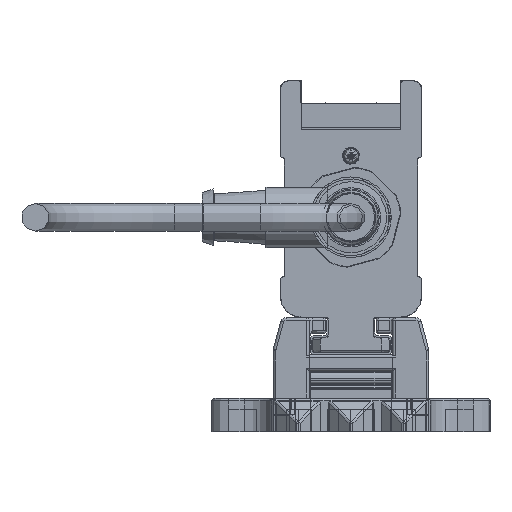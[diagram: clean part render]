
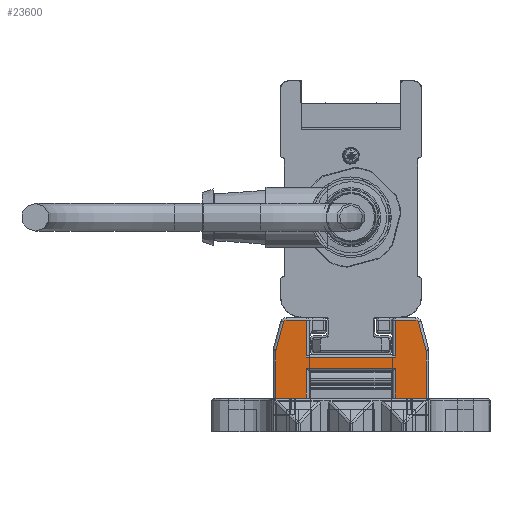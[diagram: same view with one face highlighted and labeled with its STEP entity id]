
A CAD part, left-side view. The second image highlights one B-rep face of the part: STEP entity #23600.
In plain terms, the highlighted planar face has unit normal (-1, 0, 0).
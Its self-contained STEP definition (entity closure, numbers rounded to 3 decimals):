
#23600=ADVANCED_FACE('', (#23610), #23620, .T.);
#189050=AXIS2_PLACEMENT_3D('Ax2Pl3d', #189060, #189070, #189080);
#189290=AXIS2_PLACEMENT_3D('Ax2Pl3d', #189300, #189310, #189320);
#194170=AXIS2_PLACEMENT_3D('Ax2Pl3d', #194180, #194190, #194200);
#199250=AXIS2_PLACEMENT_3D('Ax2Pl3d', #199260, #199270, #199280);
#208930=AXIS2_PLACEMENT_3D('Ax2Pl3d', #208940, #208950, #208960);
#844600=CARTESIAN_POINT('', (-747.669,-5366.345,
331.37));
#189060=CARTESIAN_POINT('HicPkt', (-747.669,-5365.379,
331.111));
#844610=CARTESIAN_POINT('', (-747.669,-5366.379,331.111)
);
#844620=CARTESIAN_POINT('', (-747.669,-5365.037,
336.255));
#844640=CARTESIAN_POINT('', (-747.669,-5365.037,
336.255));
#844670=CARTESIAN_POINT('', (-747.669,-5364.554,
336.625));
#189300=CARTESIAN_POINT('HicPkt', (-747.669,-5364.554,
336.125));
#844890=CARTESIAN_POINT('', (-747.669,-5366.379,322.625)
);
#844900=CARTESIAN_POINT('', (-747.669,-5360.881,322.625)
);
#844910=CARTESIAN_POINT('', (-747.669,-5360.881,322.625)
);
#844990=CARTESIAN_POINT('', (-747.669,-5344.881,322.625)
);
#845000=CARTESIAN_POINT('', (-747.669,-5339.383,322.625)
);
#845010=CARTESIAN_POINT('', (-747.669,-5339.383,322.625)
);
#194180=CARTESIAN_POINT('HicPkt', (-747.669,-5341.209,
336.125));
#847480=CARTESIAN_POINT('', (-747.669,-5340.726,
336.255));
#847490=CARTESIAN_POINT('', (-747.669,-5341.209,
336.625));
#847500=CARTESIAN_POINT('', (-747.669,-5360.881,
330.025));
#847510=CARTESIAN_POINT('', (-747.669,-5344.881,
330.025));
#847520=CARTESIAN_POINT('', (-747.669,-5360.881,
330.025));
#847680=CARTESIAN_POINT('', (-747.669,-5360.881,
328.005));
#847690=CARTESIAN_POINT('', (-747.669,-5344.881,
328.005));
#847700=CARTESIAN_POINT('', (-747.669,-5344.881,
328.005));
#847710=CARTESIAN_POINT('', (-747.669,-5360.881,
328.005));
#847730=CARTESIAN_POINT('', (-747.669,-5344.881,322.625)
);
#847740=CARTESIAN_POINT('', (-747.669,-5344.881,
330.025));
#847750=CARTESIAN_POINT('', (-747.669,-5344.881,
336.625));
#848600=CARTESIAN_POINT('', (-747.669,-5344.881,
336.625));
#848610=CARTESIAN_POINT('', (-747.669,-5340.726,
336.255));
#848620=CARTESIAN_POINT('', (-747.669,-5339.417,
331.37));
#848810=CARTESIAN_POINT('', (-747.669,-5339.383,331.111)
);
#848820=CARTESIAN_POINT('', (-747.669,-5339.383,331.111)
);
#199260=CARTESIAN_POINT('HicPkt', (-747.669,-5340.383,
331.111));
#849630=CARTESIAN_POINT('', (-747.669,-5366.379,331.111)
);
#208940=CARTESIAN_POINT('HicPkt', (-747.669,-5364.554,
336.625));
#851430=CARTESIAN_POINT('', (-747.669,-5360.881,
336.625));
#851440=CARTESIAN_POINT('', (-747.669,-5360.881,
336.625));
#851450=CARTESIAN_POINT('', (-747.669,-5360.881,
336.625));
#981330=CIRCLE('Circle', #189050, 1.);
#981370=CIRCLE('Circle', #189290, 0.5);
#981950=CIRCLE('Circle', #194170, 0.5);
#982480=CIRCLE('Circle', #199250, 1.);
#189070=DIRECTION('Axis', (-1.,0.,
0.));
#189080=DIRECTION('RefDirection', (0.,
0.,-1.));
#1367870=DIRECTION('', (0.,0.259,
0.966));
#189310=DIRECTION('Axis', (-1.,0.,
0.));
#189320=DIRECTION('RefDirection', (0.,
0.,-1.));
#1367980=DIRECTION('', (0.,1.,0.));
#1368020=DIRECTION('', (0.,1.,0.));
#194190=DIRECTION('Axis', (1.,0.,
0.));
#194200=DIRECTION('RefDirection', (0.,
0.,-1.));
#1369210=DIRECTION('', (0.,-1.,0.));
#1369310=DIRECTION('', (0.,1.,0.));
#1369320=DIRECTION('', (0.,0.,1.));
#1369340=DIRECTION('', (0.,0.,-1.));
#1369350=DIRECTION('', (0.,0.,-1.));
#1369780=DIRECTION('', (0.,-1.,0.))
;
#1369790=DIRECTION('', (0.,-0.259,0.966));
#1369880=DIRECTION('', (0.,0.,1.));
#199270=DIRECTION('Axis', (1.,0.,
0.));
#199280=DIRECTION('RefDirection', (0.,
0.,-1.));
#1370250=DIRECTION('', (0.,0.,1.));
#208950=DIRECTION('Axis', (-1.,0.,
0.));
#208960=DIRECTION('RefDirection', (0.,
0.,-1.));
#1371090=DIRECTION('', (0.,1.,0.));
#1371100=DIRECTION('', (0.,0.,1.));
#1456860=EDGE_CURVE('', #1456870, #1456850, #981330, .T.);
#1456920=EDGE_CURVE('', #1456850, #1456900, #1456930, .T.);
#1456990=EDGE_CURVE('', #1456900, #1456980, #981370, .T.);
#1457440=EDGE_CURVE('', #1457430, #1457450, #1457460, .T.);
#1457600=EDGE_CURVE('', #1457590, #1457610, #1457620, .T.);
#1461960=EDGE_CURVE('', #1461970, #1461980, #981950, .T.);
#1462010=EDGE_CURVE('', #1462020, #1462030, #1462040, .T.);
#1462380=EDGE_CURVE('', #1462360, #1462390, #1462400, .T.);
#1462430=EDGE_CURVE('', #1457450, #1462360, #1462440, .T.);
#1462470=EDGE_CURVE('', #1462390, #1457590, #1462480, .T.);
#1462490=EDGE_CURVE('', #1462500, #1462020, #1462510, .T.);
#1464330=EDGE_CURVE('', #1461980, #1462500, #1464340, .T.);
#1464400=EDGE_CURVE('', #1464410, #1461970, #1464420, .T.);
#1464840=EDGE_CURVE('', #1457610, #1464850, #1464860, .T.);
#1464880=EDGE_CURVE('', #1464850, #1464410, #982480, .T.);
#1466590=EDGE_CURVE('', #1457430, #1456870, #1466600, .T.);
#1470400=EDGE_CURVE('', #1456980, #1470410, #1470420, .T.);
#1470430=EDGE_CURVE('', #1462030, #1470410, #1470440, .T.);
#1750440=EDGE_LOOP('Edge_loop', (#1750450,#1750460,#1750470,#1750480,
#1750490,#1750500,#1750510,#1750520,#1750530,#1750540,#1750550,
#1750560,#1750570,#1750580,#1750590,#1750600,#1750610,#1750620));
#23610=FACE_OUTER_BOUND('Face_outer_bound', #1750440, .T.);
#1456930=LINE('Line', #844640, #2017940);
#1457460=LINE('Line', #844900, #2018050);
#1457620=LINE('Line', #845000, #2018090);
#1462040=LINE('Line', #847500, #2019280);
#1462400=LINE('Line', #847690, #2019380);
#1462440=LINE('Line', #847710, #2019390);
#1462480=LINE('Line', #847730, #2019410);
#1462510=LINE('Line', #847740, #2019420);
#1464340=LINE('Line', #848600, #2019850);
#1464420=LINE('Line', #848610, #2019860);
#1464860=LINE('Line', #848810, #2019950);
#1466600=LINE('Line', #849630, #2020320);
#1470420=LINE('Line', #851430, #2021160);
#1470440=LINE('Line', #851450, #2021170);
#1750450=ORIENTED_EDGE('', *, *, #1470400, .T.);
#1750460=ORIENTED_EDGE('', *, *, #1470430, .F.);
#1750470=ORIENTED_EDGE('', *, *, #1462010, .F.);
#1750480=ORIENTED_EDGE('', *, *, #1462490, .F.);
#1750490=ORIENTED_EDGE('', *, *, #1464330, .F.);
#1750500=ORIENTED_EDGE('', *, *, #1461960, .F.);
#1750510=ORIENTED_EDGE('', *, *, #1464400, .F.);
#1750520=ORIENTED_EDGE('', *, *, #1464880, .F.);
#1750530=ORIENTED_EDGE('', *, *, #1464840, .F.);
#1750540=ORIENTED_EDGE('', *, *, #1457600, .F.);
#1750550=ORIENTED_EDGE('', *, *, #1462470, .F.);
#1750560=ORIENTED_EDGE('', *, *, #1462380, .F.);
#1750570=ORIENTED_EDGE('', *, *, #1462430, .F.);
#1750580=ORIENTED_EDGE('', *, *, #1457440, .F.);
#1750590=ORIENTED_EDGE('', *, *, #1466590, .T.);
#1750600=ORIENTED_EDGE('', *, *, #1456860, .T.);
#1750610=ORIENTED_EDGE('', *, *, #1456920, .T.);
#1750620=ORIENTED_EDGE('', *, *, #1456990, .T.);
#23620=PLANE('Plane', #208930);
#2017940=VECTOR('', #1367870, 5.057);
#2018050=VECTOR('', #1367980, 5.498);
#2018090=VECTOR('', #1368020, 5.498);
#2019280=VECTOR('', #1369210, 16.);
#2019380=VECTOR('', #1369310, 16.);
#2019390=VECTOR('', #1369320, 5.38);
#2019410=VECTOR('', #1369340, 5.38);
#2019420=VECTOR('', #1369350, 6.6);
#2019850=VECTOR('', #1369780, 3.672);
#2019860=VECTOR('', #1369790, 5.057);
#2019950=VECTOR('', #1369880, 8.486);
#2020320=VECTOR('', #1370250, 8.486);
#2021160=VECTOR('', #1371090, 3.672);
#2021170=VECTOR('', #1371100, 6.6);
#1456850=VERTEX_POINT('', #844600);
#1456870=VERTEX_POINT('', #844610);
#1456900=VERTEX_POINT('', #844620);
#1456980=VERTEX_POINT('', #844670);
#1457430=VERTEX_POINT('', #844890);
#1457450=VERTEX_POINT('', #844910);
#1457590=VERTEX_POINT('', #844990);
#1457610=VERTEX_POINT('', #845010);
#1461970=VERTEX_POINT('', #847480);
#1461980=VERTEX_POINT('', #847490);
#1462020=VERTEX_POINT('', #847510);
#1462030=VERTEX_POINT('', #847520);
#1462360=VERTEX_POINT('', #847680);
#1462390=VERTEX_POINT('', #847700);
#1462500=VERTEX_POINT('', #847750);
#1464410=VERTEX_POINT('', #848620);
#1464850=VERTEX_POINT('', #848820);
#1470410=VERTEX_POINT('', #851440);
